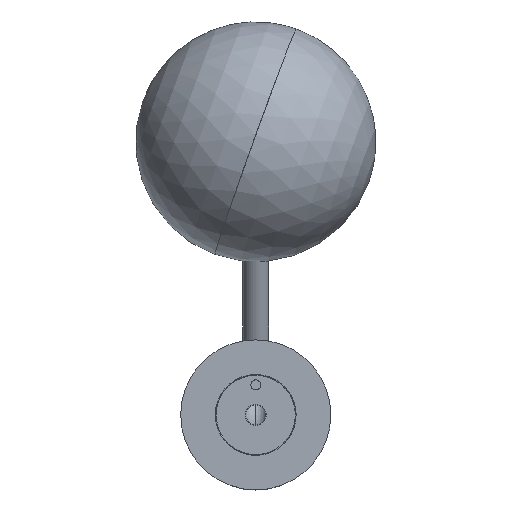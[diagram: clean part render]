
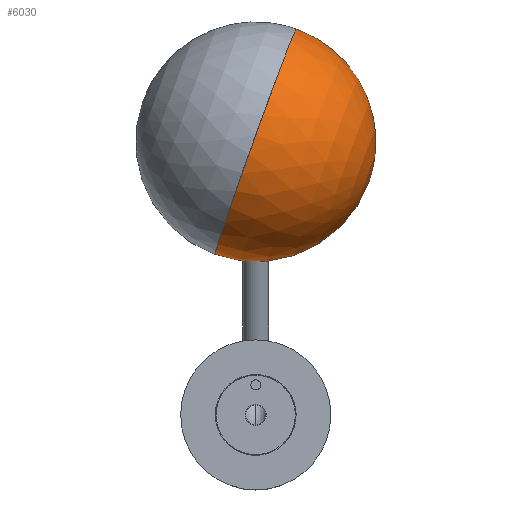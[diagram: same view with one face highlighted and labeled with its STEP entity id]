
A CAD part, front view. The second image highlights one B-rep face of the part: STEP entity #6030.
In plain terms, the highlighted spherical face has radius 60 mm.
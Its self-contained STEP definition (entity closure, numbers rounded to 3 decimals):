
#121 = CIRCLE ( 'NONE', #2410, 60. ) ;
#164 = FACE_OUTER_BOUND ( 'NONE', #2040, .T. ) ;
#165 = SPHERICAL_SURFACE ( 'NONE', #4182, 60. ) ;
#378 = CIRCLE ( 'NONE', #2226, 60. ) ;
#611 = ORIENTED_EDGE ( 'NONE', *, *, #857, .F. ) ;
#769 = ORIENTED_EDGE ( 'NONE', *, *, #5488, .F. ) ;
#775 = ORIENTED_EDGE ( 'NONE', *, *, #901, .T. ) ;
#857 = EDGE_CURVE ( 'NONE', #2052, #2055, #5891, .T. ) ;
#901 = EDGE_CURVE ( 'NONE', #2075, #2055, #378, .T. ) ;
#1251 = DIRECTION ( 'NONE',  ( -1., 0., 0. ) ) ;
#1258 = DIRECTION ( 'NONE',  ( 0., 0., -1. ) ) ;
#1260 = CARTESIAN_POINT ( 'NONE',  ( 0., 60., 0. ) ) ;
#2040 = EDGE_LOOP ( 'NONE', ( #769, #775, #611 ) ) ;
#2052 = VERTEX_POINT ( 'NONE', #3158 ) ;
#2055 = VERTEX_POINT ( 'NONE', #3161 ) ;
#2075 = VERTEX_POINT ( 'NONE', #3164 ) ;
#2200 = AXIS2_PLACEMENT_3D ( 'NONE', #5157, #5100, #5119 ) ;
#2226 = AXIS2_PLACEMENT_3D ( 'NONE', #1260, #1258, #1251 ) ;
#2410 = AXIS2_PLACEMENT_3D ( 'NONE', #3889, #3890, #3891 ) ;
#3158 = CARTESIAN_POINT ( 'NONE',  ( -24.119, 5.061, 0. ) ) ;
#3161 = CARTESIAN_POINT ( 'NONE',  ( 24.119, 5.061, 0. ) ) ;
#3164 = CARTESIAN_POINT ( 'NONE',  ( 0., 120., 0. ) ) ;
#3889 = CARTESIAN_POINT ( 'NONE',  ( 0., 60., 0. ) ) ;
#3890 = DIRECTION ( 'NONE',  ( 0., 0., 1. ) ) ;
#3891 = DIRECTION ( 'NONE',  ( 1., 0., 0. ) ) ;
#4043 = CARTESIAN_POINT ( 'NONE',  ( 0., 60., 0. ) ) ;
#4051 = DIRECTION ( 'NONE',  ( 0., 0., -1. ) ) ;
#4052 = DIRECTION ( 'NONE',  ( -1., 0., 0. ) ) ;
#4182 = AXIS2_PLACEMENT_3D ( 'NONE', #4043, #4051, #4052 ) ;
#5100 = DIRECTION ( 'NONE',  ( 0., -1., 0. ) ) ;
#5119 = DIRECTION ( 'NONE',  ( 1., 0., 0. ) ) ;
#5157 = CARTESIAN_POINT ( 'NONE',  ( 0., 5.061, 0. ) ) ;
#5488 = EDGE_CURVE ( 'NONE', #2075, #2052, #121, .T. ) ;
#5891 = CIRCLE ( 'NONE', #2200, 24.119 ) ;
#6030 = ADVANCED_FACE ( 'NONE', ( #164 ), #165, .T. ) ;
